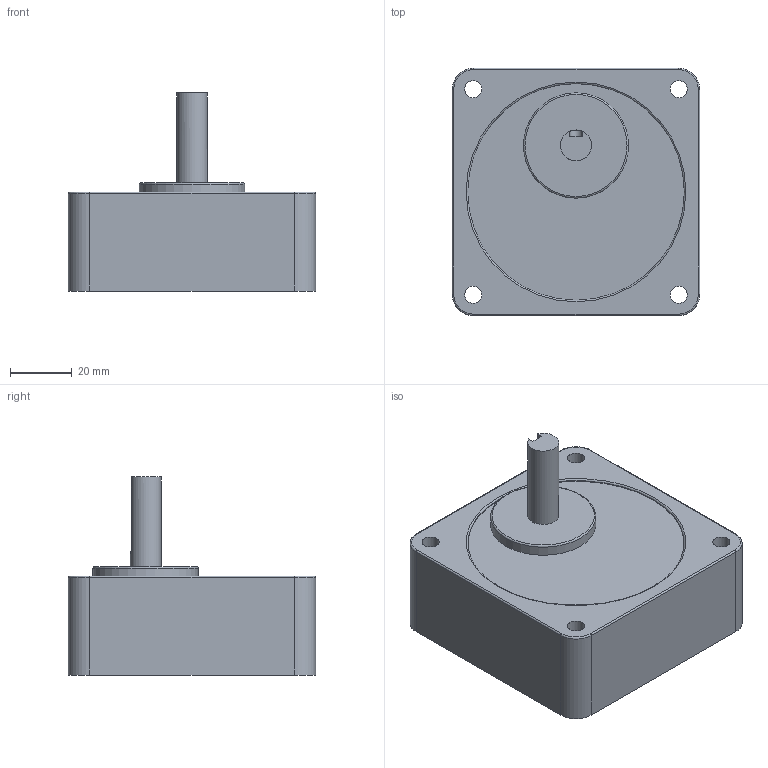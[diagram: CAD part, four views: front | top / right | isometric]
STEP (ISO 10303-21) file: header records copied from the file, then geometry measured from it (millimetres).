
FILE_DESCRIPTION((''),'2;1');
FILE_NAME('E:\2공장-도면\3D\표준형 3D(민규)\step file\감속기\K8G(3~18)B(C).stp','2014-11-13T15:45:39',('AHN'),(''),'Autodesk Inventor 2012','Autodesk Inventor 2012','');
FILE_SCHEMA(('CONFIG_CONTROL_DESIGN'));
Length unit declared in the file: millimetre
Products named in the file (1): K8G(3~18)B(C)
Bounding box: 80 x 80 x 64 mm (x, y, z)
Volume: 203109.2 mm3; surface area: 26005.1 mm2
Topology: 1 solids, 1 shells, 34 faces, 78 edges, 49 vertices
Faces by surface type: cylinder 16, plane 12, torus 6
Full cylindrical faces by diameter (mm): 5.5 x4, 10 x1, 34 x1, 70 x1
Entity records: 969 total; most frequent: DIRECTION 173, CARTESIAN_POINT 169, ORIENTED_EDGE 136, AXIS2_PLACEMENT_3D 72, EDGE_CURVE 68, EDGE_LOOP 54, VERTEX_POINT 48, CIRCLE 37
